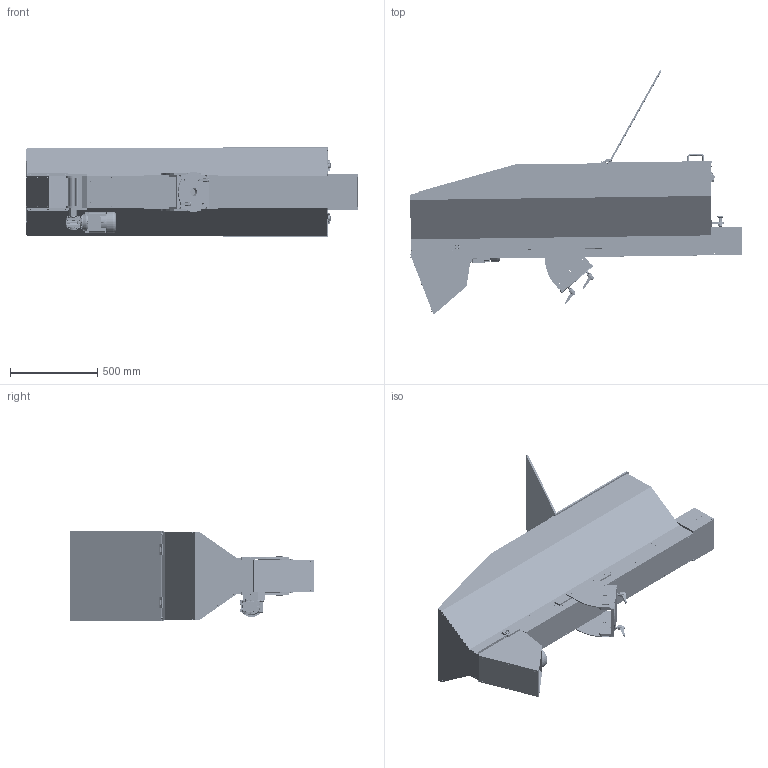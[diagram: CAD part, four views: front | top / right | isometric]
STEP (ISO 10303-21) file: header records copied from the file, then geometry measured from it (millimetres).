
FILE_DESCRIPTION (( 'STEP AP214' ), '1' );
FILE_NAME ('CM001863.00.step', '2024-09-25T08:26:33', ( '' ), ( '' ), 'SwSTEP 2.0', 'SolidWorks 2023', '' );
FILE_SCHEMA (( 'AUTOMOTIVE_DESIGN' ));
Length unit declared in the file: millimetre
Products named in the file (3): Copia di CM001863^CM001863_Default<A macchina>; CM001863.00; Copia di Copia di Supporto TRM^CM001863
Assembly tree (2 placements, depth 2):
  CM001863.00
    Copia di CM001863^CM001863_Default<A macchina>
    Copia di Copia di Supporto TRM^CM001863
Bounding box: 1901.91 x 1397.92 x 520 mm (x, y, z)
Volume: 27898941.9 mm3; surface area: 14385427.2 mm2
Topology: 264 solids, 279 shells, 7011 faces, 17947 edges, 11621 vertices
Faces by surface type: plane 3072, cylinder 2795, cone 836, torus 184, sphere 108, bspline 16
Entity records: 228133 total; most frequent: CARTESIAN_POINT 51604, DIRECTION 37333, ORIENTED_EDGE 35334, EDGE_CURVE 17671, AXIS2_PLACEMENT_3D 13980, VERTEX_POINT 11517, VECTOR 9373, LINE 9373
